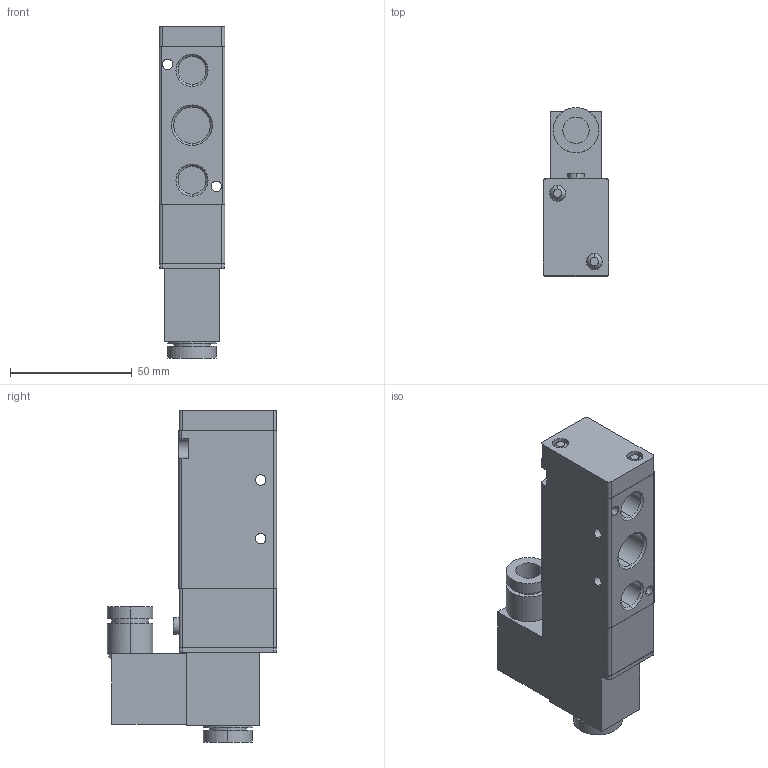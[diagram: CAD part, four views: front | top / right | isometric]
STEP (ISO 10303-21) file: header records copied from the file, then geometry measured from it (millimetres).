
FILE_DESCRIPTION (( 'STEP AP203' ), '1' );
FILE_NAME ('VB5-S03.STEP', '2020-04-15T17:02:27', ( '' ), ( '' ), 'SwSTEP 2.0', 'SolidWorks 2019', '' );
FILE_SCHEMA (( 'CONFIG_CONTROL_DESIGN' ));
Length unit declared in the file: millimetre
Products named in the file (1): VB5-S03
Bounding box: 27 x 69.3 x 136.1 mm (x, y, z)
Volume: 138703.3 mm3; surface area: 28760.5 mm2
Topology: 1 solids, 1 shells, 125 faces, 304 edges, 196 vertices
Faces by surface type: cylinder 58, plane 52, cone 11, sphere 4
Entity records: 3827 total; most frequent: DIRECTION 691, CARTESIAN_POINT 680, ORIENTED_EDGE 600, EDGE_CURVE 300, AXIS2_PLACEMENT_3D 266, VERTEX_POINT 196, VECTOR 159, LINE 159
